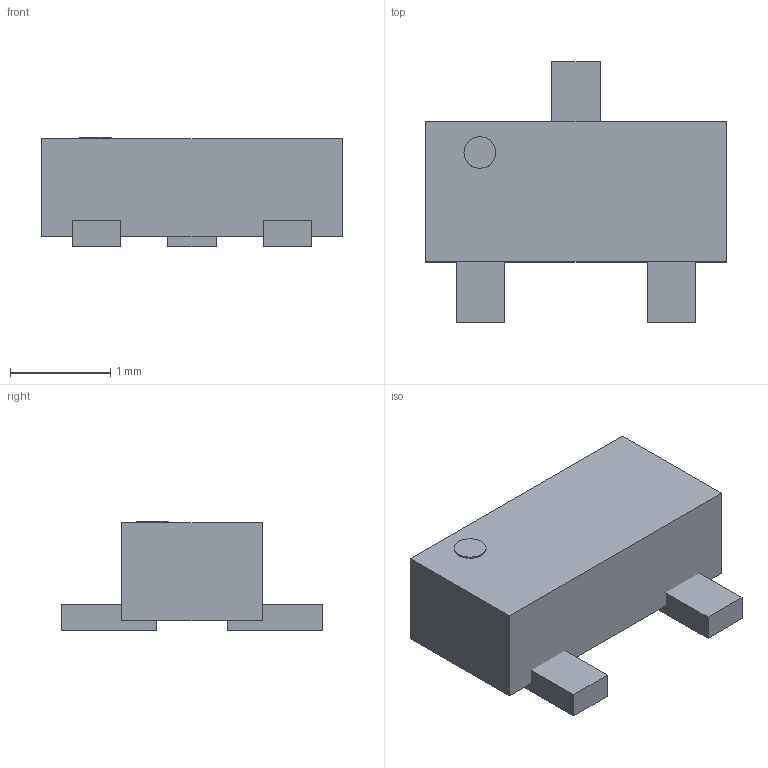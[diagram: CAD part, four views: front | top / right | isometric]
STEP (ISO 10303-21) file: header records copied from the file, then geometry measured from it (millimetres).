
FILE_DESCRIPTION(('FreeCAD Model'),'2;1');
FILE_NAME('Open CASCADE Shape Model','2026-09-21T21:53:17',('FreeCAD'),( 'FreeCAD'),'Open CASCADE STEP processor 7.8','FreeCAD','Unknown');
FILE_SCHEMA(('AUTOMOTIVE_DESIGN { 1 0 10303 214 1 1 1 1 }'));
Length unit declared in the file: millimetre
Products named in the file (1): Open CASCADE STEP translator 7.8 20
Bounding box: 3 x 2.6 x 1.09 mm (x, y, z)
Volume: 4.5 mm3; surface area: 22.2 mm2
Topology: 5 solids, 5 shells, 42 faces, 96 edges, 64 vertices
Faces by surface type: plane 42
Entity records: 1162 total; most frequent: CARTESIAN_POINT 203, ORIENTED_EDGE 192, DIRECTION 182, EDGE_CURVE 96, LINE 96, VECTOR 96, VERTEX_POINT 64, AXIS2_PLACEMENT_3D 43
